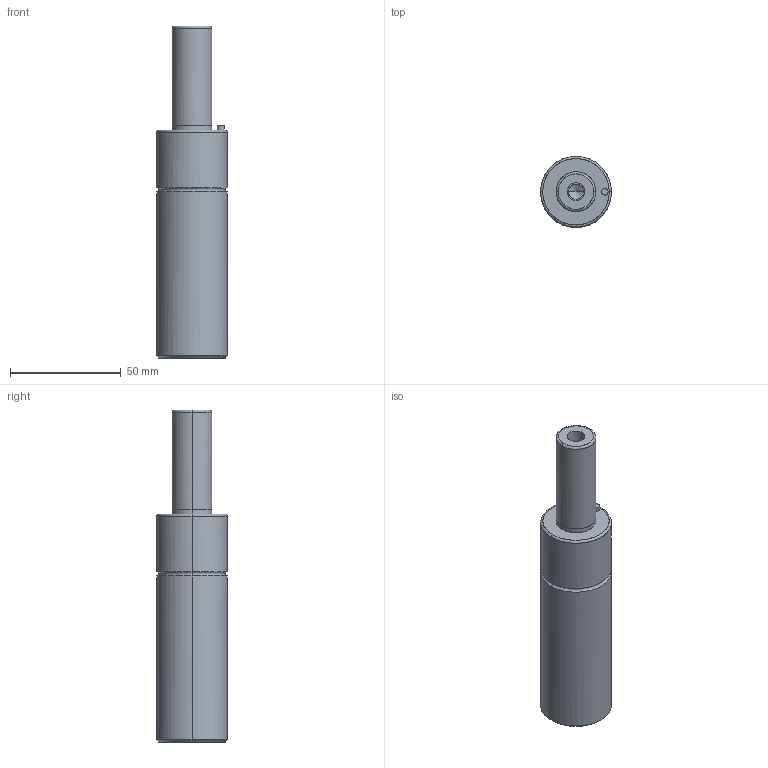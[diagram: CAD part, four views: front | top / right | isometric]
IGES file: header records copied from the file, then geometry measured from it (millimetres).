
Global section: file name: E:\UnigraphicsGraphicData\MISUMI_PRESS-PARTS\IGES\3d_gsm32-45_03921_r00.igs; native system: NX V5.0; preprocessor: UGS NX IGES V5.0; author: MISUMI; date: 20110105.160810; units: millimetre
Bounding box: 32 x 31.93 x 150 mm (x, y, z)
Surface area: 15478.5 mm2 (no closed solid volume)
Topology: 0 solids, 0 shells, 50 faces, 328 edges, 320 vertices
Faces by surface type: bspline 50
